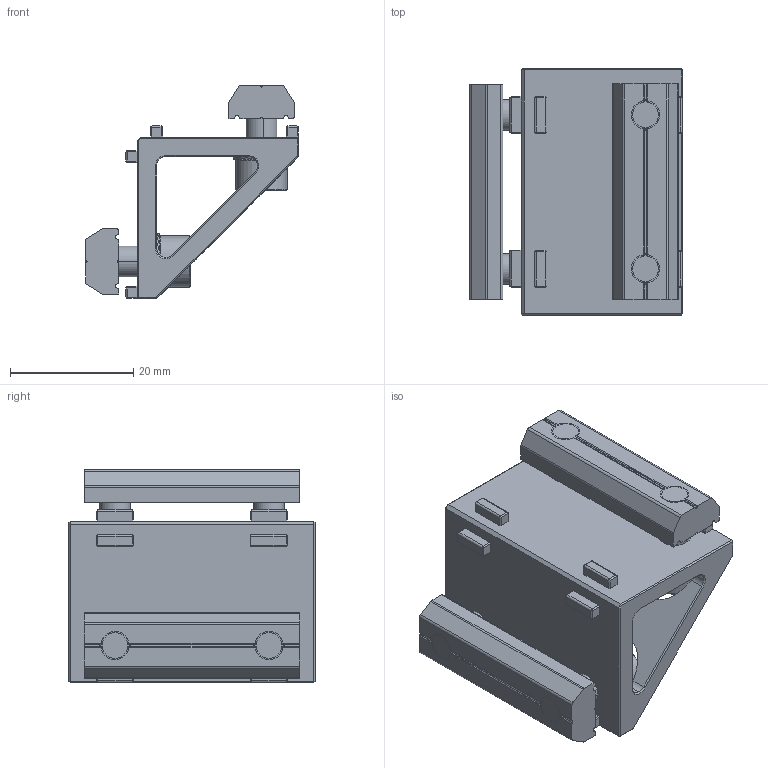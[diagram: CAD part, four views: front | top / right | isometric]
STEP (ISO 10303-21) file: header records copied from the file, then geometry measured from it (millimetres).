
FILE_DESCRIPTION (( 'STEP AP214' ), '1' );
FILE_NAME ('SNBD3-2550T.STEP', '2023-07-20T06:06:28', ( 'Windows User' ), ( 'P R C' ), 'SwSTEP 2.0', 'SolidWorks 2019', '' );
FILE_SCHEMA (( 'AUTOMOTIVE_DESIGN' ));
Length unit declared in the file: millimetre
Products named in the file (5): PTN-M5P25; SNBD3-2550T; PTC-M5L12; PTS-M5; 2550倰第褒璃
Assembly tree (11 placements, depth 2):
  SNBD3-2550T
    2550倰第褒璃
    PTC-M5L12  x4
    PTN-M5P25  x2
    PTS-M5  x4
Bounding box: 34.55 x 40 x 34.55 mm (x, y, z)
Volume: 13981.8 mm3; surface area: 11414.4 mm2
Topology: 11 solids, 11 shells, 1071 faces, 3038 edges, 1981 vertices
Faces by surface type: plane 856, cylinder 142, cone 65, bspline 8
Entity records: 18470 total; most frequent: CARTESIAN_POINT 6544, ORIENTED_EDGE 2494, DIRECTION 2416, EDGE_CURVE 1247, LINE 822, VECTOR 822, AXIS2_PLACEMENT_3D 797, VERTEX_POINT 793
